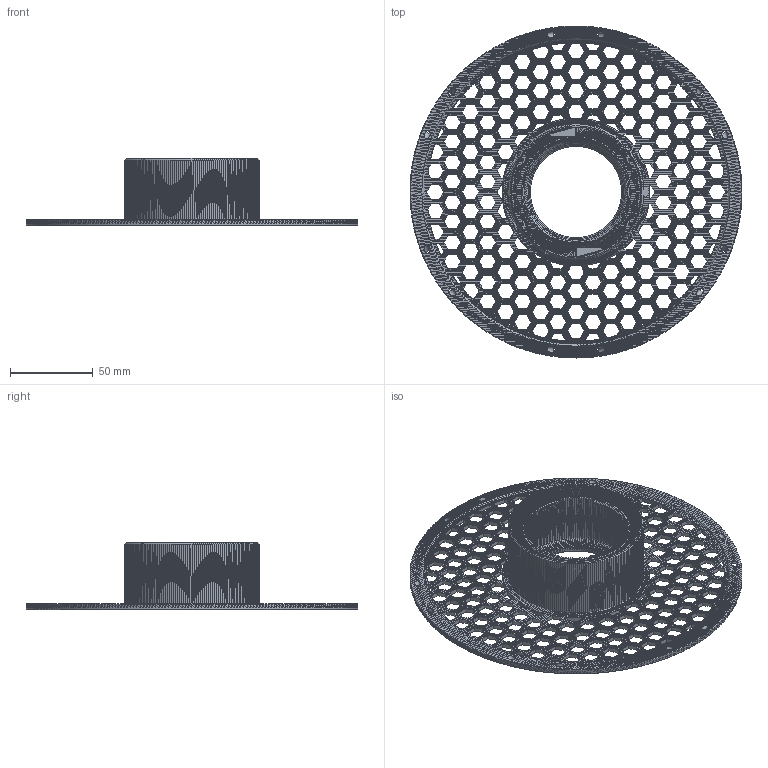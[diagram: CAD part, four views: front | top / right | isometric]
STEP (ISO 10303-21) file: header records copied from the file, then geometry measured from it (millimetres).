
FILE_DESCRIPTION(/* description */ (''),/* implementation_level */ '2;1');
FILE_NAME(/* name */ 'bambulab_spool_wide_mod_removed_bambu_notch v0.step',/* time_stamp */ '2023-04-02T16:48:42+02:00',/* author */ (''),/* organization */ (''),/* preprocessor_version */ 'ST-DEVELOPER v19.2',/* originating_system */ 'Autodesk Translation Framework v11.17.0.187',/* authorisation */ '');
FILE_SCHEMA (('AUTOMOTIVE_DESIGN { 1 0 10303 214 3 1 1 }'));
Products named in the file (1): bambulab_spool_wide_mod_removed_bambu_notch
Bounding box: 200 x 200 x 40.7 mm (x, y, z)
Volume: 86252.3 mm3; surface area: 86489.8 mm2
Topology: 1 solids, 1 shells, 23147 faces, 47124 edges, 23589 vertices
Faces by surface type: plane 23068, cylinder 79
Full cylindrical faces by diameter (mm): 2.2 x2, 3.5 x12
Entity records: 564842 total; most frequent: DIRECTION 95539, ORIENTED_EDGE 94362, CARTESIAN_POINT 93975, EDGE_CURVE 47181, LINE 45119, VECTOR 45119, AXIS2_PLACEMENT_3D 25210, VERTEX_POINT 23646
